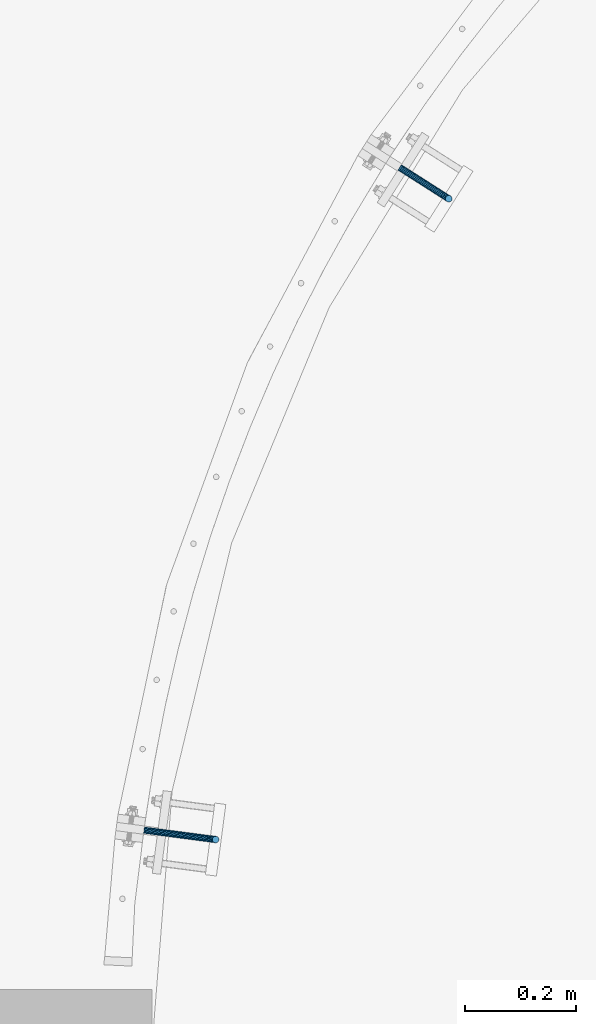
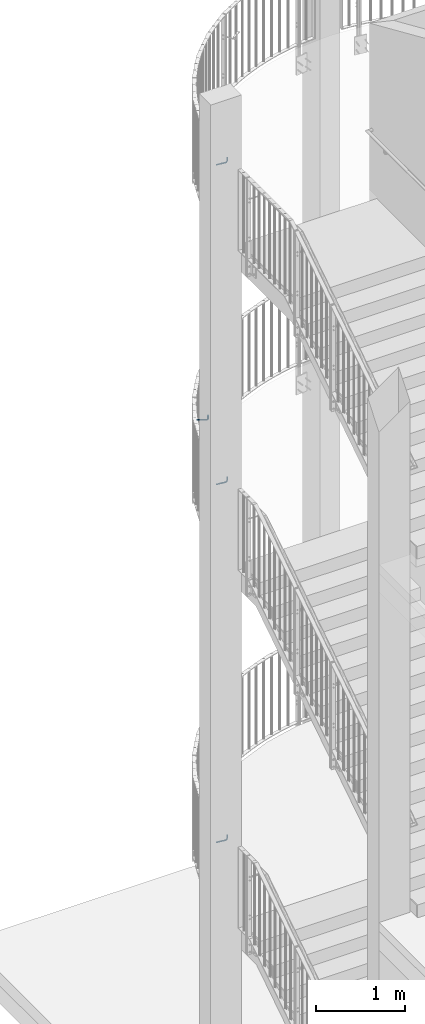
# One storey, part 139 of 296: 4 beams.
"""IFC2X3 building model written with IfcOpenShell, lengths in millimetres."""

from ifc_helpers import new_model, entity, si_unit, converted_unit, origin_with_axes, place, context, project, spatial, faceted_brep, material, element, save


model = new_model("IFC2X3")

# Units and contexts
model_context = context("Model", 3, precision=1e-09, world=origin_with_axes())
ifc_project = project(units=[si_unit("LENGTHUNIT", "METRE", prefix="MILLI"), si_unit("AREAUNIT", "SQUARE_METRE"), si_unit("VOLUMEUNIT", "CUBIC_METRE"), converted_unit("PLANEANGLEUNIT", "DEGREE", entity("IfcPlaneAngleMeasure", 0.01745329), si_unit("PLANEANGLEUNIT", "RADIAN"), dimensions=[0, 0, 0, 0, 0, 0, 0])], contexts=[model_context])

# Site, building, storey
site_placement = place(None, origin_with_axes())
site = spatial("IfcSite", under=ifc_project, at=site_placement, Name="TZD-S?d | Treppenhausgel?nder", CompositionType="ELEMENT")
building_placement = place(site_placement, origin_with_axes())
building = spatial("IfcBuilding", under=site, at=building_placement, Name="Struktur 1", CompositionType="ELEMENT")
storey_placement = place(building_placement, origin_with_axes())
storey = spatial("IfcBuildingStorey", under=building, at=storey_placement, Name="Default Storey", CompositionType="ELEMENT", Elevation=0.0)

# Beams
ifc_material = material(Name="S235JR")
beam_1_placement = place(None, origin_with_axes())
element("IfcBeam", 1, at=beam_1_placement, inside=storey, material=ifc_material, Name="-", ObjectType="-", context=model_context, shape_type="Brep", body=[
    faceted_brep([(535.283888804, 1417.386613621, 8210.0), (537.426709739, 1418.329477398, 8210.0), (539.045599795, 1420.020592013, 8210.0), (539.894097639, 1422.202500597, 8210.0), (539.843027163, 1424.543027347, 8210.0), (538.900163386, 1426.685848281, 8210.0), (537.209048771, 1428.304738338, 8210.0), (535.027140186, 1429.153236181, 8210.0), (532.686613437, 1429.102165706, 8210.0), (530.543792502, 1428.159301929, 8210.0), (528.924902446, 1426.468187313, 8210.0), (528.076404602, 1424.286278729, 8210.0), (528.127475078, 1421.94575198, 8210.0), (529.070338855, 1419.802931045, 8210.0), (530.76145347, 1418.184040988, 8210.0), (532.943362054, 1417.335543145, 8210.0), (423.110669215, 1491.156827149, 8139.456722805), (422.064793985, 1489.515131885, 8140.757359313), (421.365962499, 1488.41818618, 8142.703899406), (421.120565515, 1488.032990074, 8145.0), (421.365962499, 1488.41818618, 8147.296100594), (422.064793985, 1489.515131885, 8149.242640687), (423.110669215, 1491.156827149, 8150.543277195), (424.344363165, 1493.093338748, 8151.0), (425.578057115, 1495.029850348, 8150.543277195), (426.623932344, 1496.671545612, 8149.242640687), (427.322763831, 1497.768491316, 8147.296100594), (427.568160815, 1498.153687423, 8145.0), (427.322763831, 1497.768491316, 8142.703899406), (426.623932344, 1496.671545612, 8140.757359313), (425.578057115, 1495.029850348, 8139.456722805), (424.344363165, 1493.093338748, 8139.0), (535.283888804, 1417.386613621, 8165.0), (537.426709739, 1418.329477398, 8165.0), (532.943362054, 1417.335543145, 8165.0), (530.76145347, 1418.184040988, 8165.0), (529.070338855, 1419.802931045, 8165.0), (528.127475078, 1421.94575198, 8165.0), (528.076404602, 1424.286278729, 8165.0), (528.924902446, 1426.468187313, 8165.0), (530.543792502, 1428.159301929, 8165.0), (532.686613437, 1429.102165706, 8165.0), (535.027140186, 1429.153236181, 8165.0), (537.209048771, 1428.304738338, 8165.0), (538.900163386, 1426.685848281, 8165.0), (539.843027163, 1424.543027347, 8165.0), (539.894097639, 1422.202500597, 8165.0), (539.045599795, 1420.020592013, 8165.0), (533.727527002, 1418.37812544, 8155.722743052), (535.786847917, 1419.374184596, 8155.225011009), (531.511966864, 1418.247442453, 8156.467651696), (529.477466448, 1419.002030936, 8157.346331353), (527.93376, 1420.527011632, 8158.225011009), (527.115862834, 1422.590220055, 8158.969919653), (527.148292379, 1424.877551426, 8159.467651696), (528.02611153, 1427.040780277, 8159.642431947), (529.615680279, 1428.750574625, 8159.467651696), (531.675001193, 1429.746633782, 8158.969919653), (533.890561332, 1429.877316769, 8158.225011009), (535.925061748, 1429.122728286, 8157.346331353), (537.468768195, 1427.597747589, 8156.467651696), (538.286665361, 1425.534539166, 8155.722743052), (538.254235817, 1423.247207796, 8155.225011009), (537.376416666, 1421.083978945, 8155.050230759), (529.295383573, 1421.20171221, 8147.857864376), (531.116916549, 1422.349258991, 8146.938175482), (527.435698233, 1420.844311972, 8149.234276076), (525.820980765, 1421.331469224, 8150.857864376), (524.697057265, 1422.589018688, 8152.481452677), (524.235034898, 1424.42550986, 8153.857864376), (524.505252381, 1426.561353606, 8154.777553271), (525.466571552, 1428.671387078, 8155.100505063), (526.972640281, 1430.434376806, 8154.777553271), (528.794173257, 1431.581923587, 8153.857864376), (530.653858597, 1431.939323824, 8152.481452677), (532.268576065, 1431.452166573, 8150.857864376), (533.392499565, 1430.194617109, 8149.234276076), (533.854521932, 1428.358125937, 8147.857864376), (533.584304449, 1426.22228219, 8146.938175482), (532.622985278, 1424.112248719, 8146.615223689), (522.662212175, 1425.427508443, 8142.602720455), (524.127870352, 1426.801772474, 8141.401089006), (521.33513111, 1424.73080186, 8144.401089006), (520.34866322, 1424.817719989, 8146.52240935), (519.852989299, 1425.675030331, 8148.643729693), (519.923571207, 1427.172215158, 8150.442098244), (520.549663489, 1429.081341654, 8151.643729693), (521.635949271, 1431.111762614, 8152.065686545), (523.017051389, 1432.954364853, 8151.643729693), (524.482709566, 1434.328628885, 8150.442098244), (525.80979063, 1435.025335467, 8148.643729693), (526.796258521, 1434.938417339, 8146.52240935), (527.291932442, 1434.081106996, 8144.401089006), (527.221350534, 1432.583922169, 8142.602720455), (526.595258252, 1430.674795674, 8141.401089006), (525.50897247, 1428.644374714, 8140.979132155), (514.837853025, 1430.412174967, 8140.757359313), (515.883728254, 1432.05387023, 8139.456722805), (514.139021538, 1429.315229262, 8142.703899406), (513.893624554, 1428.930033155, 8145.0), (514.139021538, 1429.315229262, 8147.296100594), (514.837853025, 1430.412174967, 8149.242640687), (515.883728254, 1432.05387023, 8150.543277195), (517.117422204, 1433.99038183, 8151.0), (518.351116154, 1435.92689343, 8150.543277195), (519.396991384, 1437.568588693, 8149.242640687), (520.09582287, 1438.665534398, 8147.296100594), (520.341219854, 1439.050730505, 8145.0), (520.09582287, 1438.665534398, 8142.703899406), (519.396991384, 1437.568588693, 8140.757359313), (518.351116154, 1435.92689343, 8139.456722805), (517.117422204, 1433.99038183, 8139.0)], [[[0, 1, 2, 3, 4, 5, 6, 7, 8, 9, 10, 11, 12, 13, 14, 15]], [[16, 17, 18, 19, 20, 21, 22, 23, 24, 25, 26, 27, 28, 29, 30, 31]], [[1, 0, 32, 33]], [[0, 15, 34, 32]], [[15, 14, 35, 34]], [[14, 13, 36, 35]], [[13, 12, 37, 36]], [[12, 11, 38, 37]], [[11, 10, 39, 38]], [[10, 9, 40, 39]], [[9, 8, 41, 40]], [[8, 7, 42, 41]], [[7, 6, 43, 42]], [[6, 5, 44, 43]], [[5, 4, 45, 44]], [[4, 3, 46, 45]], [[3, 2, 47, 46]], [[2, 1, 33, 47]], [[33, 32, 48, 49]], [[32, 34, 50, 48]], [[34, 35, 51, 50]], [[35, 36, 52, 51]], [[36, 37, 53, 52]], [[37, 38, 54, 53]], [[38, 39, 55, 54]], [[39, 40, 56, 55]], [[40, 41, 57, 56]], [[41, 42, 58, 57]], [[42, 43, 59, 58]], [[43, 44, 60, 59]], [[44, 45, 61, 60]], [[45, 46, 62, 61]], [[46, 47, 63, 62]], [[47, 33, 49, 63]], [[49, 48, 64, 65]], [[48, 50, 66, 64]], [[50, 51, 67, 66]], [[51, 52, 68, 67]], [[52, 53, 69, 68]], [[53, 54, 70, 69]], [[54, 55, 71, 70]], [[55, 56, 72, 71]], [[56, 57, 73, 72]], [[57, 58, 74, 73]], [[58, 59, 75, 74]], [[59, 60, 76, 75]], [[60, 61, 77, 76]], [[61, 62, 78, 77]], [[62, 63, 79, 78]], [[63, 49, 65, 79]], [[65, 64, 80, 81]], [[64, 66, 82, 80]], [[66, 67, 83, 82]], [[67, 68, 84, 83]], [[68, 69, 85, 84]], [[69, 70, 86, 85]], [[70, 71, 87, 86]], [[71, 72, 88, 87]], [[72, 73, 89, 88]], [[73, 74, 90, 89]], [[74, 75, 91, 90]], [[75, 76, 92, 91]], [[76, 77, 93, 92]], [[77, 78, 94, 93]], [[78, 79, 95, 94]], [[79, 65, 81, 95]], [[81, 80, 96, 97]], [[80, 82, 98, 96]], [[82, 83, 99, 98]], [[83, 84, 100, 99]], [[84, 85, 101, 100]], [[85, 86, 102, 101]], [[86, 87, 103, 102]], [[87, 88, 104, 103]], [[88, 89, 105, 104]], [[89, 90, 106, 105]], [[90, 91, 107, 106]], [[91, 92, 108, 107]], [[92, 93, 109, 108]], [[93, 94, 110, 109]], [[94, 95, 111, 110]], [[95, 81, 97, 111]], [[97, 96, 17, 16]], [[96, 98, 18, 17]], [[98, 99, 19, 18]], [[99, 100, 20, 19]], [[100, 101, 21, 20]], [[101, 102, 22, 21]], [[102, 103, 23, 22]], [[103, 104, 24, 23]], [[104, 105, 25, 24]], [[105, 106, 26, 25]], [[106, 107, 27, 26]], [[107, 108, 28, 27]], [[108, 109, 29, 28]], [[109, 110, 30, 29]], [[110, 111, 31, 30]], [[111, 97, 16, 31]]]),
])
beam_2_placement = place(None, origin_with_axes())
element("IfcBeam", 2, at=beam_2_placement, inside=storey, material=ifc_material, Name="-", ObjectType="-", context=model_context, shape_type="Brep", body=[
    faceted_brep([(117.906386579, 265.281634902, 8210.0), (119.449970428, 267.041754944, 8210.0), (120.202487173, 269.258597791, 8210.0), (120.049372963, 271.594669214, 8210.0), (119.013938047, 273.694323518, 8210.0), (117.253818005, 275.237907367, 8210.0), (115.036975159, 275.990424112, 8210.0), (112.700903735, 275.837309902, 8210.0), (110.601249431, 274.801874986, 8210.0), (109.057665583, 273.041754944, 8210.0), (108.305148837, 270.824912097, 8210.0), (108.458263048, 268.488840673, 8210.0), (109.493697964, 266.38918637, 8210.0), (111.253818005, 264.845602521, 8210.0), (113.470660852, 264.093085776, 8210.0), (115.806732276, 264.246199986, 8210.0), (-14.933715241, 284.733702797, 8139.456722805), (-15.187789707, 282.803815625, 8140.757359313), (-15.357556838, 281.514306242, 8142.703899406), (-15.417171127, 281.061490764, 8145.0), (-15.357556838, 281.514306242, 8147.296100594), (-15.187789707, 282.803815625, 8149.242640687), (-14.933715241, 284.733702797, 8150.543277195), (-14.634013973, 287.010159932, 8151.0), (-14.334312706, 289.286617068, 8150.543277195), (-14.080238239, 291.21650424, 8149.242640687), (-13.910471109, 292.506013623, 8147.296100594), (-13.85085682, 292.958829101, 8145.0), (-13.910471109, 292.506013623, 8142.703899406), (-14.080238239, 291.21650424, 8140.757359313), (-14.334312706, 289.286617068, 8139.456722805), (-14.634013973, 287.010159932, 8139.0), (117.906386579, 265.281634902, 8165.0), (119.449970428, 267.041754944, 8165.0), (115.806732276, 264.246199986, 8165.0), (113.470660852, 264.093085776, 8165.0), (111.253818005, 264.845602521, 8165.0), (109.493697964, 266.38918637, 8165.0), (108.458263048, 268.488840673, 8165.0), (108.305148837, 270.824912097, 8165.0), (109.057665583, 273.041754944, 8165.0), (110.601249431, 274.801874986, 8165.0), (112.700903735, 275.837309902, 8165.0), (115.036975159, 275.990424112, 8165.0), (117.253818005, 275.237907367, 8165.0), (119.013938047, 273.694323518, 8165.0), (120.049372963, 271.594669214, 8165.0), (120.202487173, 269.258597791, 8165.0), (116.076812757, 265.522502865, 8155.722743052), (117.522238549, 267.29554566, 8155.225011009), (114.124062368, 264.467727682, 8156.467651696), (111.961275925, 264.291800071, 8157.346331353), (109.91771806, 265.021503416, 8158.225011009), (108.304501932, 266.545746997, 8158.969919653), (107.367225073, 268.632478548, 8159.467651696), (107.248579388, 270.964012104, 8159.642431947), (107.966627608, 273.185392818, 8159.467651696), (109.4120534, 274.958435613, 8158.969919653), (111.364803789, 276.013210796, 8158.225011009), (113.527590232, 276.189138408, 8157.346331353), (115.571148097, 275.459435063, 8156.467651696), (117.184364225, 273.935191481, 8155.722743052), (118.121641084, 271.848459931, 8155.225011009), (118.240286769, 269.516926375, 8155.050230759), (110.866627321, 266.208436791, 8147.857864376), (112.032522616, 268.018280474, 8146.938175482), (109.332223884, 265.098585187, 8149.234276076), (107.662911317, 264.857690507, 8150.857864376), (106.112827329, 265.522426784, 8152.481452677), (104.917958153, 266.991593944, 8153.857864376), (104.26021179, 269.041524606, 8154.777553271), (104.239724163, 271.360135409, 8155.100505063), (104.859614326, 273.594438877, 8154.777553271), (106.025509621, 275.40428256, 8153.857864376), (107.559913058, 276.514134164, 8152.481452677), (109.229225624, 276.755028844, 8150.857864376), (110.779309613, 276.090292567, 8149.234276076), (111.974178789, 274.621125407, 8147.857864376), (112.631925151, 272.571194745, 8146.938175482), (112.652412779, 270.252583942, 8146.615223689), (103.069033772, 267.235009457, 8142.602720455), (103.816582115, 269.099929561, 8141.401089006), (102.160730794, 266.042730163, 8144.401089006), (101.229954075, 265.704605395, 8146.52240935), (100.418405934, 266.272111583, 8148.643729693), (99.849637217, 267.658851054, 8150.442098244), (99.610237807, 269.653705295, 8151.643729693), (99.736654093, 271.952975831, 8152.065686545), (100.209640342, 274.206619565, 8151.643729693), (100.957188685, 276.07153967, 8150.442098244), (101.865491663, 277.263818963, 8148.643729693), (102.796268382, 277.601943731, 8146.52240935), (103.607816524, 277.034437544, 8144.401089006), (104.17658524, 275.647698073, 8142.602720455), (104.41598465, 273.652843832, 8141.401089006), (104.289568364, 271.353573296, 8140.979132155), (93.871145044, 268.44593448, 8140.757359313), (94.12521951, 270.375821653, 8139.456722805), (93.701377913, 267.156425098, 8142.703899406), (93.641763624, 266.70360962, 8145.0), (93.701377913, 267.156425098, 8147.296100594), (93.871145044, 268.44593448, 8149.242640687), (94.12521951, 270.375821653, 8150.543277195), (94.424920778, 272.652278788, 8151.0), (94.724622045, 274.928735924, 8150.543277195), (94.978696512, 276.858623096, 8149.242640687), (95.148463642, 278.148132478, 8147.296100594), (95.208077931, 278.600947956, 8145.0), (95.148463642, 278.148132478, 8142.703899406), (94.978696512, 276.858623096, 8140.757359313), (94.724622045, 274.928735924, 8139.456722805), (94.424920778, 272.652278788, 8139.0)], [[[0, 1, 2, 3, 4, 5, 6, 7, 8, 9, 10, 11, 12, 13, 14, 15]], [[16, 17, 18, 19, 20, 21, 22, 23, 24, 25, 26, 27, 28, 29, 30, 31]], [[1, 0, 32, 33]], [[0, 15, 34, 32]], [[15, 14, 35, 34]], [[14, 13, 36, 35]], [[13, 12, 37, 36]], [[12, 11, 38, 37]], [[11, 10, 39, 38]], [[10, 9, 40, 39]], [[9, 8, 41, 40]], [[8, 7, 42, 41]], [[7, 6, 43, 42]], [[6, 5, 44, 43]], [[5, 4, 45, 44]], [[4, 3, 46, 45]], [[3, 2, 47, 46]], [[2, 1, 33, 47]], [[33, 32, 48, 49]], [[32, 34, 50, 48]], [[34, 35, 51, 50]], [[35, 36, 52, 51]], [[36, 37, 53, 52]], [[37, 38, 54, 53]], [[38, 39, 55, 54]], [[39, 40, 56, 55]], [[40, 41, 57, 56]], [[41, 42, 58, 57]], [[42, 43, 59, 58]], [[43, 44, 60, 59]], [[44, 45, 61, 60]], [[45, 46, 62, 61]], [[46, 47, 63, 62]], [[47, 33, 49, 63]], [[49, 48, 64, 65]], [[48, 50, 66, 64]], [[50, 51, 67, 66]], [[51, 52, 68, 67]], [[52, 53, 69, 68]], [[53, 54, 70, 69]], [[54, 55, 71, 70]], [[55, 56, 72, 71]], [[56, 57, 73, 72]], [[57, 58, 74, 73]], [[58, 59, 75, 74]], [[59, 60, 76, 75]], [[60, 61, 77, 76]], [[61, 62, 78, 77]], [[62, 63, 79, 78]], [[63, 49, 65, 79]], [[65, 64, 80, 81]], [[64, 66, 82, 80]], [[66, 67, 83, 82]], [[67, 68, 84, 83]], [[68, 69, 85, 84]], [[69, 70, 86, 85]], [[70, 71, 87, 86]], [[71, 72, 88, 87]], [[72, 73, 89, 88]], [[73, 74, 90, 89]], [[74, 75, 91, 90]], [[75, 76, 92, 91]], [[76, 77, 93, 92]], [[77, 78, 94, 93]], [[78, 79, 95, 94]], [[79, 65, 81, 95]], [[81, 80, 96, 97]], [[80, 82, 98, 96]], [[82, 83, 99, 98]], [[83, 84, 100, 99]], [[84, 85, 101, 100]], [[85, 86, 102, 101]], [[86, 87, 103, 102]], [[87, 88, 104, 103]], [[88, 89, 105, 104]], [[89, 90, 106, 105]], [[90, 91, 107, 106]], [[91, 92, 108, 107]], [[92, 93, 109, 108]], [[93, 94, 110, 109]], [[94, 95, 111, 110]], [[95, 81, 97, 111]], [[97, 96, 17, 16]], [[96, 98, 18, 17]], [[98, 99, 19, 18]], [[99, 100, 20, 19]], [[100, 101, 21, 20]], [[101, 102, 22, 21]], [[102, 103, 23, 22]], [[103, 104, 24, 23]], [[104, 105, 25, 24]], [[105, 106, 26, 25]], [[106, 107, 27, 26]], [[107, 108, 28, 27]], [[108, 109, 29, 28]], [[109, 110, 30, 29]], [[110, 111, 31, 30]], [[111, 97, 16, 31]]]),
])
beam_3_placement = place(None, origin_with_axes())
element("IfcBeam", 3, at=beam_3_placement, inside=storey, material=ifc_material, Name="-", ObjectType="-", context=model_context, shape_type="Brep", body=[
    faceted_brep([(117.906386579, 265.281634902, 3310.0), (119.449970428, 267.041754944, 3310.0), (120.202487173, 269.258597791, 3310.0), (120.049372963, 271.594669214, 3310.0), (119.013938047, 273.694323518, 3310.0), (117.253818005, 275.237907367, 3310.0), (115.036975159, 275.990424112, 3310.0), (112.700903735, 275.837309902, 3310.0), (110.601249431, 274.801874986, 3310.0), (109.057665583, 273.041754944, 3310.0), (108.305148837, 270.824912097, 3310.0), (108.458263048, 268.488840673, 3310.0), (109.493697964, 266.38918637, 3310.0), (111.253818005, 264.845602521, 3310.0), (113.470660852, 264.093085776, 3310.0), (115.806732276, 264.246199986, 3310.0), (-14.933715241, 284.733702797, 3239.456722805), (-15.187789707, 282.803815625, 3240.757359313), (-15.357556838, 281.514306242, 3242.703899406), (-15.417171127, 281.061490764, 3245.0), (-15.357556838, 281.514306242, 3247.296100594), (-15.187789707, 282.803815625, 3249.242640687), (-14.933715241, 284.733702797, 3250.543277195), (-14.634013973, 287.010159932, 3251.0), (-14.334312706, 289.286617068, 3250.543277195), (-14.080238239, 291.21650424, 3249.242640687), (-13.910471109, 292.506013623, 3247.296100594), (-13.85085682, 292.958829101, 3245.0), (-13.910471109, 292.506013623, 3242.703899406), (-14.080238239, 291.21650424, 3240.757359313), (-14.334312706, 289.286617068, 3239.456722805), (-14.634013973, 287.010159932, 3239.0), (117.906386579, 265.281634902, 3265.0), (119.449970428, 267.041754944, 3265.0), (115.806732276, 264.246199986, 3265.0), (113.470660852, 264.093085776, 3265.0), (111.253818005, 264.845602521, 3265.0), (109.493697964, 266.38918637, 3265.0), (108.458263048, 268.488840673, 3265.0), (108.305148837, 270.824912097, 3265.0), (109.057665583, 273.041754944, 3265.0), (110.601249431, 274.801874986, 3265.0), (112.700903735, 275.837309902, 3265.0), (115.036975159, 275.990424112, 3265.0), (117.253818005, 275.237907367, 3265.0), (119.013938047, 273.694323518, 3265.0), (120.049372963, 271.594669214, 3265.0), (120.202487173, 269.258597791, 3265.0), (116.076812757, 265.522502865, 3255.722743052), (117.522238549, 267.29554566, 3255.225011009), (114.124062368, 264.467727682, 3256.467651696), (111.961275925, 264.291800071, 3257.346331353), (109.91771806, 265.021503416, 3258.225011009), (108.304501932, 266.545746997, 3258.969919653), (107.367225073, 268.632478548, 3259.467651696), (107.248579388, 270.964012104, 3259.642431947), (107.966627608, 273.185392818, 3259.467651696), (109.4120534, 274.958435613, 3258.969919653), (111.364803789, 276.013210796, 3258.225011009), (113.527590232, 276.189138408, 3257.346331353), (115.571148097, 275.459435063, 3256.467651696), (117.184364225, 273.935191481, 3255.722743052), (118.121641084, 271.848459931, 3255.225011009), (118.240286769, 269.516926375, 3255.050230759), (110.866627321, 266.208436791, 3247.857864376), (112.032522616, 268.018280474, 3246.938175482), (109.332223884, 265.098585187, 3249.234276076), (107.662911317, 264.857690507, 3250.857864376), (106.112827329, 265.522426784, 3252.481452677), (104.917958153, 266.991593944, 3253.857864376), (104.26021179, 269.041524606, 3254.777553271), (104.239724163, 271.360135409, 3255.100505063), (104.859614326, 273.594438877, 3254.777553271), (106.025509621, 275.40428256, 3253.857864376), (107.559913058, 276.514134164, 3252.481452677), (109.229225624, 276.755028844, 3250.857864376), (110.779309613, 276.090292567, 3249.234276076), (111.974178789, 274.621125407, 3247.857864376), (112.631925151, 272.571194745, 3246.938175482), (112.652412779, 270.252583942, 3246.615223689), (103.069033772, 267.235009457, 3242.602720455), (103.816582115, 269.099929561, 3241.401089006), (102.160730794, 266.042730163, 3244.401089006), (101.229954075, 265.704605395, 3246.52240935), (100.418405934, 266.272111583, 3248.643729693), (99.849637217, 267.658851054, 3250.442098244), (99.610237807, 269.653705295, 3251.643729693), (99.736654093, 271.952975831, 3252.065686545), (100.209640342, 274.206619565, 3251.643729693), (100.957188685, 276.07153967, 3250.442098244), (101.865491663, 277.263818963, 3248.643729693), (102.796268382, 277.601943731, 3246.52240935), (103.607816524, 277.034437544, 3244.401089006), (104.17658524, 275.647698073, 3242.602720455), (104.41598465, 273.652843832, 3241.401089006), (104.289568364, 271.353573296, 3240.979132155), (93.871145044, 268.44593448, 3240.757359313), (94.12521951, 270.375821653, 3239.456722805), (93.701377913, 267.156425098, 3242.703899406), (93.641763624, 266.70360962, 3245.0), (93.701377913, 267.156425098, 3247.296100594), (93.871145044, 268.44593448, 3249.242640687), (94.12521951, 270.375821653, 3250.543277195), (94.424920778, 272.652278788, 3251.0), (94.724622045, 274.928735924, 3250.543277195), (94.978696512, 276.858623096, 3249.242640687), (95.148463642, 278.148132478, 3247.296100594), (95.208077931, 278.600947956, 3245.0), (95.148463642, 278.148132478, 3242.703899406), (94.978696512, 276.858623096, 3240.757359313), (94.724622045, 274.928735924, 3239.456722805), (94.424920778, 272.652278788, 3239.0)], [[[0, 1, 2, 3, 4, 5, 6, 7, 8, 9, 10, 11, 12, 13, 14, 15]], [[16, 17, 18, 19, 20, 21, 22, 23, 24, 25, 26, 27, 28, 29, 30, 31]], [[1, 0, 32, 33]], [[0, 15, 34, 32]], [[15, 14, 35, 34]], [[14, 13, 36, 35]], [[13, 12, 37, 36]], [[12, 11, 38, 37]], [[11, 10, 39, 38]], [[10, 9, 40, 39]], [[9, 8, 41, 40]], [[8, 7, 42, 41]], [[7, 6, 43, 42]], [[6, 5, 44, 43]], [[5, 4, 45, 44]], [[4, 3, 46, 45]], [[3, 2, 47, 46]], [[2, 1, 33, 47]], [[33, 32, 48, 49]], [[32, 34, 50, 48]], [[34, 35, 51, 50]], [[35, 36, 52, 51]], [[36, 37, 53, 52]], [[37, 38, 54, 53]], [[38, 39, 55, 54]], [[39, 40, 56, 55]], [[40, 41, 57, 56]], [[41, 42, 58, 57]], [[42, 43, 59, 58]], [[43, 44, 60, 59]], [[44, 45, 61, 60]], [[45, 46, 62, 61]], [[46, 47, 63, 62]], [[47, 33, 49, 63]], [[49, 48, 64, 65]], [[48, 50, 66, 64]], [[50, 51, 67, 66]], [[51, 52, 68, 67]], [[52, 53, 69, 68]], [[53, 54, 70, 69]], [[54, 55, 71, 70]], [[55, 56, 72, 71]], [[56, 57, 73, 72]], [[57, 58, 74, 73]], [[58, 59, 75, 74]], [[59, 60, 76, 75]], [[60, 61, 77, 76]], [[61, 62, 78, 77]], [[62, 63, 79, 78]], [[63, 49, 65, 79]], [[65, 64, 80, 81]], [[64, 66, 82, 80]], [[66, 67, 83, 82]], [[67, 68, 84, 83]], [[68, 69, 85, 84]], [[69, 70, 86, 85]], [[70, 71, 87, 86]], [[71, 72, 88, 87]], [[72, 73, 89, 88]], [[73, 74, 90, 89]], [[74, 75, 91, 90]], [[75, 76, 92, 91]], [[76, 77, 93, 92]], [[77, 78, 94, 93]], [[78, 79, 95, 94]], [[79, 65, 81, 95]], [[81, 80, 96, 97]], [[80, 82, 98, 96]], [[82, 83, 99, 98]], [[83, 84, 100, 99]], [[84, 85, 101, 100]], [[85, 86, 102, 101]], [[86, 87, 103, 102]], [[87, 88, 104, 103]], [[88, 89, 105, 104]], [[89, 90, 106, 105]], [[90, 91, 107, 106]], [[91, 92, 108, 107]], [[92, 93, 109, 108]], [[93, 94, 110, 109]], [[94, 95, 111, 110]], [[95, 81, 97, 111]], [[97, 96, 17, 16]], [[96, 98, 18, 17]], [[98, 99, 19, 18]], [[99, 100, 20, 19]], [[100, 101, 21, 20]], [[101, 102, 22, 21]], [[102, 103, 23, 22]], [[103, 104, 24, 23]], [[104, 105, 25, 24]], [[105, 106, 26, 25]], [[106, 107, 27, 26]], [[107, 108, 28, 27]], [[108, 109, 29, 28]], [[109, 110, 30, 29]], [[110, 111, 31, 30]], [[111, 97, 16, 31]]]),
])
beam_4_placement = place(None, origin_with_axes())
element("IfcBeam", 4, at=beam_4_placement, inside=storey, material=ifc_material, Name="-", ObjectType="-", context=model_context, shape_type="Brep", body=[
    faceted_brep([(117.906386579, 265.281634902, 12585.0), (119.449970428, 267.041754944, 12585.0), (120.202487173, 269.258597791, 12585.0), (120.049372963, 271.594669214, 12585.0), (119.013938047, 273.694323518, 12585.0), (117.253818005, 275.237907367, 12585.0), (115.036975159, 275.990424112, 12585.0), (112.700903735, 275.837309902, 12585.0), (110.601249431, 274.801874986, 12585.0), (109.057665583, 273.041754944, 12585.0), (108.305148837, 270.824912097, 12585.0), (108.458263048, 268.488840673, 12585.0), (109.493697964, 266.38918637, 12585.0), (111.253818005, 264.845602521, 12585.0), (113.470660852, 264.093085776, 12585.0), (115.806732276, 264.246199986, 12585.0), (-14.933715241, 284.733702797, 12514.456722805), (-15.187789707, 282.803815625, 12515.757359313), (-15.357556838, 281.514306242, 12517.703899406), (-15.417171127, 281.061490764, 12520.0), (-15.357556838, 281.514306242, 12522.296100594), (-15.187789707, 282.803815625, 12524.242640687), (-14.933715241, 284.733702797, 12525.543277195), (-14.634013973, 287.010159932, 12526.0), (-14.334312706, 289.286617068, 12525.543277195), (-14.080238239, 291.21650424, 12524.242640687), (-13.910471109, 292.506013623, 12522.296100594), (-13.85085682, 292.958829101, 12520.0), (-13.910471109, 292.506013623, 12517.703899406), (-14.080238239, 291.21650424, 12515.757359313), (-14.334312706, 289.286617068, 12514.456722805), (-14.634013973, 287.010159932, 12514.0), (117.906386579, 265.281634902, 12540.0), (119.449970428, 267.041754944, 12540.0), (115.806732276, 264.246199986, 12540.0), (113.470660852, 264.093085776, 12540.0), (111.253818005, 264.845602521, 12540.0), (109.493697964, 266.38918637, 12540.0), (108.458263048, 268.488840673, 12540.0), (108.305148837, 270.824912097, 12540.0), (109.057665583, 273.041754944, 12540.0), (110.601249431, 274.801874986, 12540.0), (112.700903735, 275.837309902, 12540.0), (115.036975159, 275.990424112, 12540.0), (117.253818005, 275.237907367, 12540.0), (119.013938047, 273.694323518, 12540.0), (120.049372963, 271.594669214, 12540.0), (120.202487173, 269.258597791, 12540.0), (116.076812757, 265.522502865, 12530.722743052), (117.522238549, 267.29554566, 12530.225011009), (114.124062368, 264.467727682, 12531.467651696), (111.961275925, 264.291800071, 12532.346331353), (109.91771806, 265.021503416, 12533.225011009), (108.304501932, 266.545746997, 12533.969919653), (107.367225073, 268.632478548, 12534.467651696), (107.248579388, 270.964012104, 12534.642431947), (107.966627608, 273.185392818, 12534.467651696), (109.4120534, 274.958435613, 12533.969919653), (111.364803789, 276.013210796, 12533.225011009), (113.527590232, 276.189138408, 12532.346331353), (115.571148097, 275.459435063, 12531.467651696), (117.184364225, 273.935191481, 12530.722743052), (118.121641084, 271.848459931, 12530.225011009), (118.240286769, 269.516926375, 12530.050230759), (110.866627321, 266.208436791, 12522.857864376), (112.032522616, 268.018280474, 12521.938175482), (109.332223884, 265.098585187, 12524.234276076), (107.662911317, 264.857690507, 12525.857864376), (106.112827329, 265.522426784, 12527.481452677), (104.917958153, 266.991593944, 12528.857864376), (104.26021179, 269.041524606, 12529.777553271), (104.239724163, 271.360135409, 12530.100505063), (104.859614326, 273.594438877, 12529.777553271), (106.025509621, 275.40428256, 12528.857864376), (107.559913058, 276.514134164, 12527.481452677), (109.229225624, 276.755028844, 12525.857864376), (110.779309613, 276.090292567, 12524.234276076), (111.974178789, 274.621125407, 12522.857864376), (112.631925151, 272.571194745, 12521.938175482), (112.652412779, 270.252583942, 12521.615223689), (103.069033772, 267.235009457, 12517.602720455), (103.816582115, 269.099929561, 12516.401089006), (102.160730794, 266.042730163, 12519.401089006), (101.229954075, 265.704605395, 12521.52240935), (100.418405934, 266.272111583, 12523.643729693), (99.849637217, 267.658851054, 12525.442098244), (99.610237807, 269.653705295, 12526.643729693), (99.736654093, 271.952975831, 12527.065686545), (100.209640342, 274.206619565, 12526.643729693), (100.957188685, 276.07153967, 12525.442098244), (101.865491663, 277.263818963, 12523.643729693), (102.796268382, 277.601943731, 12521.52240935), (103.607816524, 277.034437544, 12519.401089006), (104.17658524, 275.647698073, 12517.602720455), (104.41598465, 273.652843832, 12516.401089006), (104.289568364, 271.353573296, 12515.979132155), (93.871145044, 268.44593448, 12515.757359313), (94.12521951, 270.375821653, 12514.456722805), (93.701377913, 267.156425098, 12517.703899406), (93.641763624, 266.70360962, 12520.0), (93.701377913, 267.156425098, 12522.296100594), (93.871145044, 268.44593448, 12524.242640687), (94.12521951, 270.375821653, 12525.543277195), (94.424920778, 272.652278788, 12526.0), (94.724622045, 274.928735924, 12525.543277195), (94.978696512, 276.858623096, 12524.242640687), (95.148463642, 278.148132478, 12522.296100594), (95.208077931, 278.600947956, 12520.0), (95.148463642, 278.148132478, 12517.703899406), (94.978696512, 276.858623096, 12515.757359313), (94.724622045, 274.928735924, 12514.456722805), (94.424920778, 272.652278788, 12514.0)], [[[0, 1, 2, 3, 4, 5, 6, 7, 8, 9, 10, 11, 12, 13, 14, 15]], [[16, 17, 18, 19, 20, 21, 22, 23, 24, 25, 26, 27, 28, 29, 30, 31]], [[1, 0, 32, 33]], [[0, 15, 34, 32]], [[15, 14, 35, 34]], [[14, 13, 36, 35]], [[13, 12, 37, 36]], [[12, 11, 38, 37]], [[11, 10, 39, 38]], [[10, 9, 40, 39]], [[9, 8, 41, 40]], [[8, 7, 42, 41]], [[7, 6, 43, 42]], [[6, 5, 44, 43]], [[5, 4, 45, 44]], [[4, 3, 46, 45]], [[3, 2, 47, 46]], [[2, 1, 33, 47]], [[33, 32, 48, 49]], [[32, 34, 50, 48]], [[34, 35, 51, 50]], [[35, 36, 52, 51]], [[36, 37, 53, 52]], [[37, 38, 54, 53]], [[38, 39, 55, 54]], [[39, 40, 56, 55]], [[40, 41, 57, 56]], [[41, 42, 58, 57]], [[42, 43, 59, 58]], [[43, 44, 60, 59]], [[44, 45, 61, 60]], [[45, 46, 62, 61]], [[46, 47, 63, 62]], [[47, 33, 49, 63]], [[49, 48, 64, 65]], [[48, 50, 66, 64]], [[50, 51, 67, 66]], [[51, 52, 68, 67]], [[52, 53, 69, 68]], [[53, 54, 70, 69]], [[54, 55, 71, 70]], [[55, 56, 72, 71]], [[56, 57, 73, 72]], [[57, 58, 74, 73]], [[58, 59, 75, 74]], [[59, 60, 76, 75]], [[60, 61, 77, 76]], [[61, 62, 78, 77]], [[62, 63, 79, 78]], [[63, 49, 65, 79]], [[65, 64, 80, 81]], [[64, 66, 82, 80]], [[66, 67, 83, 82]], [[67, 68, 84, 83]], [[68, 69, 85, 84]], [[69, 70, 86, 85]], [[70, 71, 87, 86]], [[71, 72, 88, 87]], [[72, 73, 89, 88]], [[73, 74, 90, 89]], [[74, 75, 91, 90]], [[75, 76, 92, 91]], [[76, 77, 93, 92]], [[77, 78, 94, 93]], [[78, 79, 95, 94]], [[79, 65, 81, 95]], [[81, 80, 96, 97]], [[80, 82, 98, 96]], [[82, 83, 99, 98]], [[83, 84, 100, 99]], [[84, 85, 101, 100]], [[85, 86, 102, 101]], [[86, 87, 103, 102]], [[87, 88, 104, 103]], [[88, 89, 105, 104]], [[89, 90, 106, 105]], [[90, 91, 107, 106]], [[91, 92, 108, 107]], [[92, 93, 109, 108]], [[93, 94, 110, 109]], [[94, 95, 111, 110]], [[95, 81, 97, 111]], [[97, 96, 17, 16]], [[96, 98, 18, 17]], [[98, 99, 19, 18]], [[99, 100, 20, 19]], [[100, 101, 21, 20]], [[101, 102, 22, 21]], [[102, 103, 23, 22]], [[103, 104, 24, 23]], [[104, 105, 25, 24]], [[105, 106, 26, 25]], [[106, 107, 27, 26]], [[107, 108, 28, 27]], [[108, 109, 29, 28]], [[109, 110, 30, 29]], [[110, 111, 31, 30]], [[111, 97, 16, 31]]]),
])

save(model, "model.ifc")
